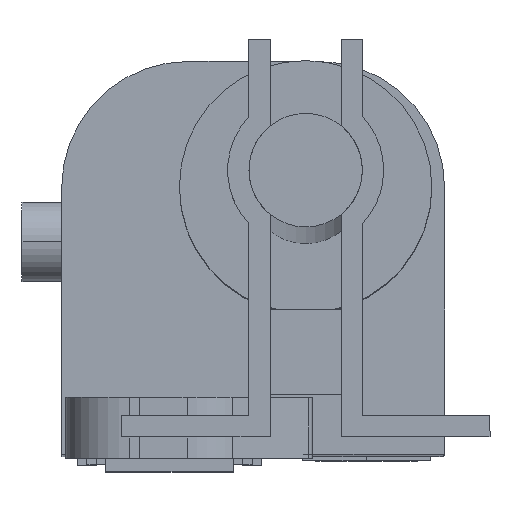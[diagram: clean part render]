
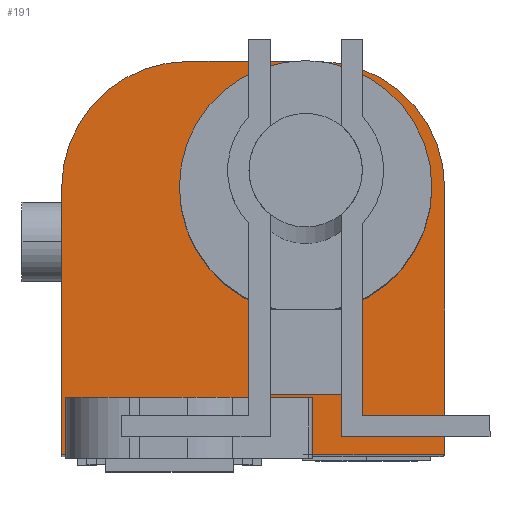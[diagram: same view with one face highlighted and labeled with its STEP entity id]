
A CAD part, top view. The second image highlights one B-rep face of the part: STEP entity #191.
In plain terms, the highlighted planar face has unit normal (0, 0, 1).
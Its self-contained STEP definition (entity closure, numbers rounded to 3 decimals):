
#118 = ORIENTED_EDGE ( 'NONE', *, *, #5028, .F. ) ;
#119 = ORIENTED_EDGE ( 'NONE', *, *, #127, .T. ) ;
#121 = EDGE_CURVE ( 'NONE', #198, #1504, #7378, .T. ) ;
#122 = VERTEX_POINT ( 'NONE', #7371 ) ;
#123 = ORIENTED_EDGE ( 'NONE', *, *, #1502, .T. ) ;
#124 = ORIENTED_EDGE ( 'NONE', *, *, #128, .F. ) ;
#126 = ORIENTED_EDGE ( 'NONE', *, *, #139, .T. ) ;
#127 = EDGE_CURVE ( 'NONE', #1498, #122, #7370, .T. ) ;
#128 = EDGE_CURVE ( 'NONE', #5030, #122, #7360, .T. ) ;
#129 = ORIENTED_EDGE ( 'NONE', *, *, #4751, .T. ) ;
#132 = VERTEX_POINT ( 'NONE', #7352 ) ;
#139 = EDGE_CURVE ( 'NONE', #4893, #132, #7344, .T. ) ;
#170 = EDGE_CURVE ( 'NONE', #132, #172, #7514, .T. ) ;
#171 = ORIENTED_EDGE ( 'NONE', *, *, #204, .T. ) ;
#172 = VERTEX_POINT ( 'NONE', #7510 ) ;
#173 = ORIENTED_EDGE ( 'NONE', *, *, #177, .T. ) ;
#174 = ORIENTED_EDGE ( 'NONE', *, *, #170, .T. ) ;
#175 = EDGE_LOOP ( 'NONE', ( #174, #173, #171, #178, #123, #119, #124, #118, #129, #126 ) ) ;
#177 = EDGE_CURVE ( 'NONE', #172, #201, #7497, .T. ) ;
#178 = ORIENTED_EDGE ( 'NONE', *, *, #121, .T. ) ;
#182 = EDGE_CURVE ( 'NONE', #1717, #1711, #7481, .T. ) ;
#183 = ORIENTED_EDGE ( 'NONE', *, *, #1715, .F. ) ;
#186 = EDGE_LOOP ( 'NONE', ( #187, #183 ) ) ;
#187 = ORIENTED_EDGE ( 'NONE', *, *, #182, .F. ) ;
#191 = ADVANCED_FACE ( 'NONE', ( #7471, #7469 ), #7465, .F. ) ;
#198 = VERTEX_POINT ( 'NONE', #7549 ) ;
#201 = VERTEX_POINT ( 'NONE', #7546 ) ;
#204 = EDGE_CURVE ( 'NONE', #201, #198, #7544, .T. ) ;
#1498 = VERTEX_POINT ( 'NONE', #9831 ) ;
#1502 = EDGE_CURVE ( 'NONE', #1504, #1498, #9830, .T. ) ;
#1504 = VERTEX_POINT ( 'NONE', #9823 ) ;
#1711 = VERTEX_POINT ( 'NONE', #10148 ) ;
#1715 = EDGE_CURVE ( 'NONE', #1711, #1717, #10141, .T. ) ;
#1717 = VERTEX_POINT ( 'NONE', #10133 ) ;
#4751 = EDGE_CURVE ( 'NONE', #5024, #4893, #9299, .T. ) ;
#4893 = VERTEX_POINT ( 'NONE', #9731 ) ;
#5024 = VERTEX_POINT ( 'NONE', #10013 ) ;
#5028 = EDGE_CURVE ( 'NONE', #5024, #5030, #10006, .T. ) ;
#5030 = VERTEX_POINT ( 'NONE', #10000 ) ;
#7338 = DIRECTION ( 'NONE',  ( 1., 0., 0. ) ) ;
#7340 = VECTOR ( 'NONE', #7338, 1000. ) ;
#7342 = CARTESIAN_POINT ( 'NONE',  ( -17.2, 0., 0. ) ) ;
#7344 = LINE ( 'NONE', #7342, #7340 ) ;
#7352 = CARTESIAN_POINT ( 'NONE',  ( 9.8, 0., 0. ) ) ;
#7354 = DIRECTION ( 'NONE',  ( 0., -1., 0. ) ) ;
#7356 = VECTOR ( 'NONE', #7354, 1000. ) ;
#7358 = CARTESIAN_POINT ( 'NONE',  ( -16.9, 4., 0. ) ) ;
#7360 = LINE ( 'NONE', #7358, #7356 ) ;
#7365 = DIRECTION ( 'NONE',  ( 1., 0., 0. ) ) ;
#7366 = VECTOR ( 'NONE', #7365, 1000. ) ;
#7368 = CARTESIAN_POINT ( 'NONE',  ( -17.2, 0., 0. ) ) ;
#7370 = LINE ( 'NONE', #7368, #7366 ) ;
#7371 = CARTESIAN_POINT ( 'NONE',  ( -16.9, 0., 0. ) ) ;
#7372 = DIRECTION ( 'NONE',  ( -1., 0., 0. ) ) ;
#7374 = DIRECTION ( 'NONE',  ( 0., 0., 1. ) ) ;
#7375 = CARTESIAN_POINT ( 'NONE',  ( -8.3, 18.8, 0. ) ) ;
#7376 = AXIS2_PLACEMENT_3D ( 'NONE', #7375, #7374, #7372 ) ;
#7378 = CIRCLE ( 'NONE', #7376, 8.9 ) ;
#7460 = DIRECTION ( 'NONE',  ( -1., 0., 0. ) ) ;
#7462 = DIRECTION ( 'NONE',  ( 0., 0., -1. ) ) ;
#7463 = CARTESIAN_POINT ( 'NONE',  ( -17.2, 0., 0. ) ) ;
#7464 = AXIS2_PLACEMENT_3D ( 'NONE', #7463, #7462, #7460 ) ;
#7465 = PLANE ( 'NONE',  #7464 ) ;
#7469 = FACE_OUTER_BOUND ( 'NONE', #175, .T. ) ;
#7471 = FACE_BOUND ( 'NONE', #186, .T. ) ;
#7473 = DIRECTION ( 'NONE',  ( 1., 0., 0. ) ) ;
#7475 = DIRECTION ( 'NONE',  ( 0., 0., 1. ) ) ;
#7477 = CARTESIAN_POINT ( 'NONE',  ( 0., 18.8, 0. ) ) ;
#7479 = AXIS2_PLACEMENT_3D ( 'NONE', #7477, #7475, #7473 ) ;
#7481 = CIRCLE ( 'NONE', #7479, 7. ) ;
#7490 = DIRECTION ( 'NONE',  ( -1., 0., 0. ) ) ;
#7492 = DIRECTION ( 'NONE',  ( 0., 0., 1. ) ) ;
#7494 = CARTESIAN_POINT ( 'NONE',  ( 0.9, 18.8, 0. ) ) ;
#7495 = AXIS2_PLACEMENT_3D ( 'NONE', #7494, #7492, #7490 ) ;
#7497 = CIRCLE ( 'NONE', #7495, 8.9 ) ;
#7510 = CARTESIAN_POINT ( 'NONE',  ( 9.8, 18.8, 0. ) ) ;
#7511 = DIRECTION ( 'NONE',  ( 0., 1., 0. ) ) ;
#7512 = VECTOR ( 'NONE', #7511, 1000. ) ;
#7513 = CARTESIAN_POINT ( 'NONE',  ( 9.8, 0., 0. ) ) ;
#7514 = LINE ( 'NONE', #7513, #7512 ) ;
#7541 = DIRECTION ( 'NONE',  ( -1., 0., 0. ) ) ;
#7542 = VECTOR ( 'NONE', #7541, 1000. ) ;
#7543 = CARTESIAN_POINT ( 'NONE',  ( -17.2, 27.7, 0. ) ) ;
#7544 = LINE ( 'NONE', #7543, #7542 ) ;
#7546 = CARTESIAN_POINT ( 'NONE',  ( 0.9, 27.7, 0. ) ) ;
#7549 = CARTESIAN_POINT ( 'NONE',  ( -8.3, 27.7, 0. ) ) ;
#9294 = DIRECTION ( 'NONE',  ( 0., -1., 0. ) ) ;
#9296 = VECTOR ( 'NONE', #9294, 1000. ) ;
#9298 = CARTESIAN_POINT ( 'NONE',  ( 0.5, 4., 0. ) ) ;
#9299 = LINE ( 'NONE', #9298, #9296 ) ;
#9731 = CARTESIAN_POINT ( 'NONE',  ( 0.5, 0., 0. ) ) ;
#9823 = CARTESIAN_POINT ( 'NONE',  ( -17.2, 18.8, 0. ) ) ;
#9825 = DIRECTION ( 'NONE',  ( 0., -1., 0. ) ) ;
#9827 = VECTOR ( 'NONE', #9825, 1000. ) ;
#9829 = CARTESIAN_POINT ( 'NONE',  ( -17.2, 0., 0. ) ) ;
#9830 = LINE ( 'NONE', #9829, #9827 ) ;
#9831 = CARTESIAN_POINT ( 'NONE',  ( -17.2, 0., 0. ) ) ;
#10000 = CARTESIAN_POINT ( 'NONE',  ( -16.9, 4., 0. ) ) ;
#10001 = DIRECTION ( 'NONE',  ( -1., 0., 0. ) ) ;
#10002 = VECTOR ( 'NONE', #10001, 1000. ) ;
#10004 = CARTESIAN_POINT ( 'NONE',  ( -16.9, 4., 0. ) ) ;
#10006 = LINE ( 'NONE', #10004, #10002 ) ;
#10013 = CARTESIAN_POINT ( 'NONE',  ( 0.5, 4., 0. ) ) ;
#10133 = CARTESIAN_POINT ( 'NONE',  ( 7., 18.8, 0. ) ) ;
#10134 = DIRECTION ( 'NONE',  ( 1., 0., 0. ) ) ;
#10136 = DIRECTION ( 'NONE',  ( 0., 0., 1. ) ) ;
#10138 = CARTESIAN_POINT ( 'NONE',  ( 0., 18.8, 0. ) ) ;
#10140 = AXIS2_PLACEMENT_3D ( 'NONE', #10138, #10136, #10134 ) ;
#10141 = CIRCLE ( 'NONE', #10140, 7. ) ;
#10148 = CARTESIAN_POINT ( 'NONE',  ( -7., 18.8, 0. ) ) ;
